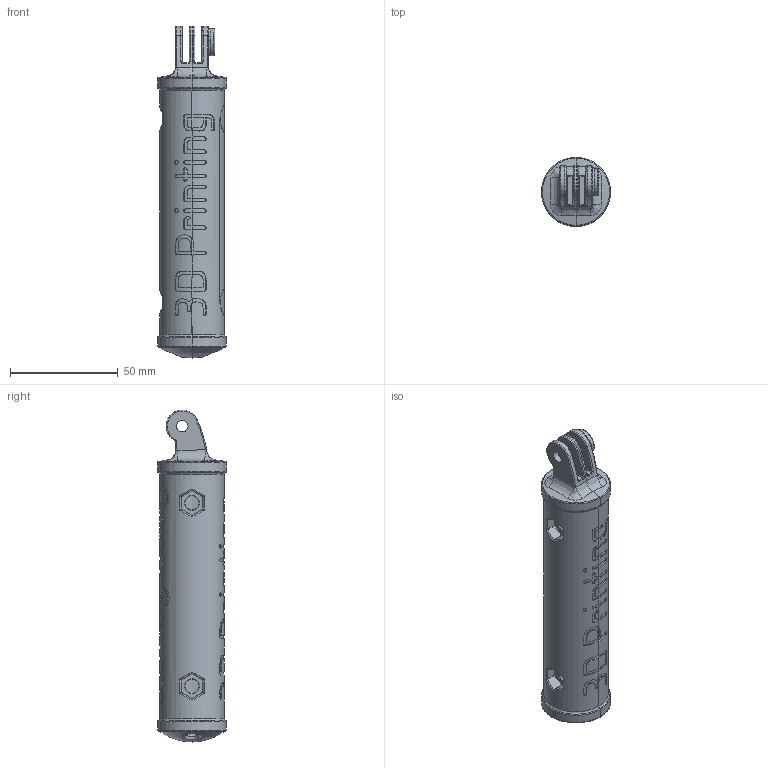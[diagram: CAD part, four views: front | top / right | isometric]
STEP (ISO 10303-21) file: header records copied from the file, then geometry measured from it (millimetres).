
FILE_DESCRIPTION(('STEP AP214'),'1');
FILE_NAME('GoPro Pole.stp','2015-07-14T12:02:49',(' '),(' '),'Spatial InterOp 3D',' ',' ');
FILE_SCHEMA(('automotive_design'));
Length unit declared in the file: millimetre
Products named in the file (3): GoPro Pole
Assembly tree (2 placements, depth 2):
  (unnamed)
    GoPro Pole
    GoPro Pole
Bounding box: 32 x 32 x 153.98 mm (x, y, z)
Volume: 45246.2 mm3; surface area: 25928 mm2
Topology: 1 solids, 2 shells, 800 faces, 2238 edges, 1437 vertices
Faces by surface type: bspline 438, cylinder 150, plane 146, torus 45, sphere 21
Full cylindrical faces by diameter (mm): 5.3 x4, 6.5 x4, 11 x2, 12.5 x1
Entity records: 47629 total; most frequent: CARTESIAN_POINT 24714, ORIENTED_EDGE 4544, EDGE_CURVE 2272, B_SPLINE_CURVE_WITH_KNOTS 1665, DIRECTION 1624, VERTEX_POINT 1511, EDGE_LOOP 855, FACE_OUTER_BOUND 824
